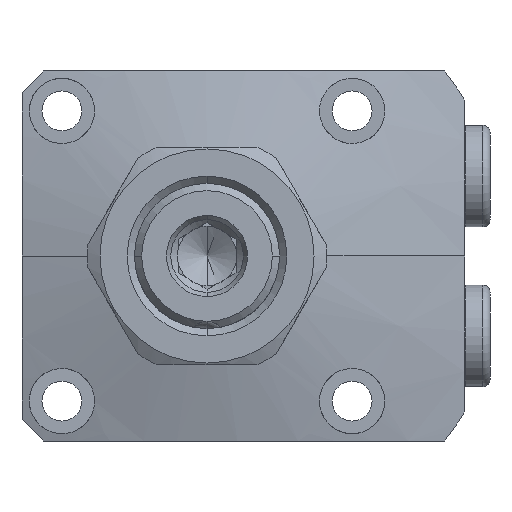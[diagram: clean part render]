
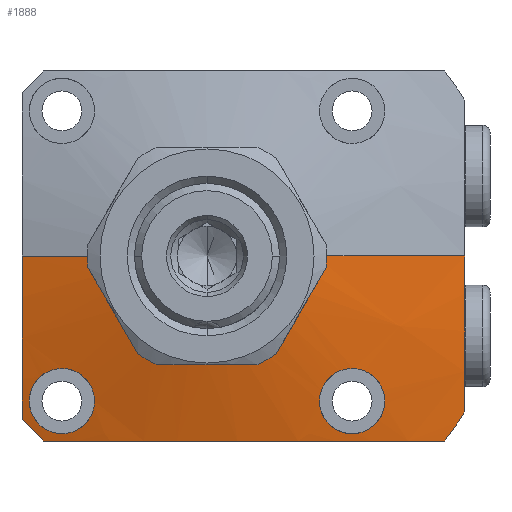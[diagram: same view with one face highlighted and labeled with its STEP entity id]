
A CAD part, left-side view. The second image highlights one B-rep face of the part: STEP entity #1888.
In plain terms, the highlighted conical face has half-angle 75 degrees and reference radius 15 mm.
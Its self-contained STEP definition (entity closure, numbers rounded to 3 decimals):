
#867=CONICAL_SURFACE('',#5576,15.,75.);
#935=B_SPLINE_CURVE_WITH_KNOTS('',3,(#8179,#8180,#8181,#8182,#8183,#8184,
#8185,#8186,#8187,#8188),.UNSPECIFIED.,.F.,.F.,(4,2,2,2,4),(0.,0.25,0.5,
0.75,1.),.UNSPECIFIED.);
#937=B_SPLINE_CURVE_WITH_KNOTS('',3,(#8215,#8216,#8217,#8218,#8219,#8220,
#8221,#8222,#8223,#8224),.UNSPECIFIED.,.F.,.F.,(4,2,2,2,4),(0.,0.25,0.5,
0.75,1.),.UNSPECIFIED.);
#948=B_SPLINE_CURVE_WITH_KNOTS('',3,(#8532,#8533,#8534,#8535),
 .UNSPECIFIED.,.F.,.F.,(4,4),(0.,1.),.UNSPECIFIED.);
#950=B_SPLINE_CURVE_WITH_KNOTS('',3,(#8625,#8626,#8627,#8628),
 .UNSPECIFIED.,.F.,.F.,(4,4),(0.,1.),.UNSPECIFIED.);
#951=B_SPLINE_CURVE_WITH_KNOTS('',3,(#8630,#8631,#8632,#8633),
 .UNSPECIFIED.,.F.,.F.,(4,4),(0.,1.),.UNSPECIFIED.);
#952=B_SPLINE_CURVE_WITH_KNOTS('',3,(#8635,#8636,#8637,#8638,#8639,#8640,
#8641,#8642,#8643,#8644),.UNSPECIFIED.,.F.,.F.,(4,2,2,2,4),(0.,0.25,0.5,
0.75,1.),.UNSPECIFIED.);
#953=B_SPLINE_CURVE_WITH_KNOTS('',3,(#8645,#8646,#8647,#8648,#8649,#8650,
#8651,#8652,#8653,#8654),.UNSPECIFIED.,.F.,.F.,(4,2,2,2,4),(0.,0.25,0.5,
0.75,1.),.UNSPECIFIED.);
#954=B_SPLINE_CURVE_WITH_KNOTS('',3,(#8655,#8656,#8657,#8658,#8659,#8660,
#8661,#8662,#8663,#8664),.UNSPECIFIED.,.F.,.F.,(4,2,2,2,4),(0.,0.25,0.5,
0.75,1.),.UNSPECIFIED.);
#1167=FACE_BOUND('',#2483,.T.);
#1168=FACE_BOUND('',#2484,.T.);
#1169=FACE_BOUND('',#2485,.T.);
#1399=LINE('',#8294,#1626);
#1400=LINE('',#8322,#1627);
#1626=VECTOR('',#6403,1.);
#1627=VECTOR('',#6406,1.);
#1888=ADVANCED_FACE('',(#1167,#1168,#1169),#867,.T.);
#2483=EDGE_LOOP('',(#3346,#3347,#3348,#3349,#3350,#3351,#3352,#3353));
#2484=EDGE_LOOP('',(#3354,#3355));
#2485=EDGE_LOOP('',(#3356,#3357));
#3346=ORIENTED_EDGE('',*,*,#4563,.F.);
#3347=ORIENTED_EDGE('',*,*,#4687,.F.);
#3348=ORIENTED_EDGE('',*,*,#4569,.T.);
#3349=ORIENTED_EDGE('',*,*,#4688,.T.);
#3350=ORIENTED_EDGE('',*,*,#4689,.T.);
#3351=ORIENTED_EDGE('',*,*,#4690,.T.);
#3352=ORIENTED_EDGE('',*,*,#4686,.T.);
#3353=ORIENTED_EDGE('',*,*,#4648,.T.);
#3354=ORIENTED_EDGE('',*,*,#4691,.F.);
#3355=ORIENTED_EDGE('',*,*,#4534,.F.);
#3356=ORIENTED_EDGE('',*,*,#4692,.F.);
#3357=ORIENTED_EDGE('',*,*,#4542,.F.);
#4058=VERTEX_POINT('',#8178);
#4059=VERTEX_POINT('',#8189);
#4066=VERTEX_POINT('',#8214);
#4067=VERTEX_POINT('',#8225);
#4082=VERTEX_POINT('',#8292);
#4083=VERTEX_POINT('',#8293);
#4084=VERTEX_POINT('',#8295);
#4089=VERTEX_POINT('',#8321);
#4151=VERTEX_POINT('',#8527);
#4160=VERTEX_POINT('',#8621);
#4161=VERTEX_POINT('',#8629);
#4162=VERTEX_POINT('',#8634);
#4534=EDGE_CURVE('',#4058,#4059,#935,.T.);
#4542=EDGE_CURVE('',#4066,#4067,#937,.T.);
#4563=EDGE_CURVE('',#4082,#4084,#1399,.T.);
#4569=EDGE_CURVE('',#4083,#4089,#1400,.T.);
#4648=EDGE_CURVE('',#4151,#4084,#948,.T.);
#4686=EDGE_CURVE('',#4160,#4151,#5103,.T.);
#4687=EDGE_CURVE('',#4083,#4082,#5104,.T.);
#4688=EDGE_CURVE('',#4089,#4161,#950,.T.);
#4689=EDGE_CURVE('',#4161,#4162,#951,.T.);
#4690=EDGE_CURVE('',#4162,#4160,#952,.T.);
#4691=EDGE_CURVE('',#4059,#4058,#953,.T.);
#4692=EDGE_CURVE('',#4067,#4066,#954,.T.);
#5103=CIRCLE('',#5573,41.5);
#5104=CIRCLE('',#5575,15.);
#5573=AXIS2_PLACEMENT_3D('',#8622,#6684,#6685);
#5575=AXIS2_PLACEMENT_3D('',#8624,#6688,#6689);
#5576=AXIS2_PLACEMENT_3D('',#8665,#6690,#6691);
#6403=DIRECTION('',(0.259,-0.966,0.));
#6406=DIRECTION('',(0.259,0.966,0.));
#6684=DIRECTION('',(-1.,0.,0.));
#6685=DIRECTION('',(0.,-1.,0.));
#6688=DIRECTION('',(-1.,0.,0.));
#6689=DIRECTION('',(0.,-1.,0.));
#6690=DIRECTION('',(1.,0.,0.));
#6691=DIRECTION('',(0.,-1.,0.));
#8178=CARTESIAN_POINT('',(-23.545,24.5,-20.));
#8179=CARTESIAN_POINT('',(-23.545,24.5,-20.));
#8180=CARTESIAN_POINT('',(-23.343,24.5,-21.192));
#8181=CARTESIAN_POINT('',(-23.232,24.004,-22.376));
#8182=CARTESIAN_POINT('',(-23.237,22.301,-24.047));
#8183=CARTESIAN_POINT('',(-23.355,21.101,-24.52));
#8184=CARTESIAN_POINT('',(-23.763,18.739,-24.478));
#8185=CARTESIAN_POINT('',(-24.051,17.594,-23.976));
#8186=CARTESIAN_POINT('',(-24.666,15.971,-22.317));
#8187=CARTESIAN_POINT('',(-24.989,15.5,-21.182));
#8188=CARTESIAN_POINT('',(-25.239,15.5,-20.));
#8189=CARTESIAN_POINT('',(-25.239,15.5,-20.));
#8214=CARTESIAN_POINT('',(-25.239,-15.5,-20.));
#8215=CARTESIAN_POINT('',(-25.239,-15.5,-20.));
#8216=CARTESIAN_POINT('',(-24.989,-15.5,-21.183));
#8217=CARTESIAN_POINT('',(-24.665,-15.974,-22.32));
#8218=CARTESIAN_POINT('',(-24.052,-17.591,-23.973));
#8219=CARTESIAN_POINT('',(-23.763,-18.741,-24.477));
#8220=CARTESIAN_POINT('',(-23.357,-21.088,-24.522));
#8221=CARTESIAN_POINT('',(-23.238,-22.291,-24.054));
#8222=CARTESIAN_POINT('',(-23.232,-24.005,-22.377));
#8223=CARTESIAN_POINT('',(-23.343,-24.5,-21.193));
#8224=CARTESIAN_POINT('',(-23.545,-24.5,-20.));
#8225=CARTESIAN_POINT('',(-23.545,-24.5,-20.));
#8292=CARTESIAN_POINT('',(-28.,-15.,0.));
#8293=CARTESIAN_POINT('',(-28.,15.,0.));
#8294=CARTESIAN_POINT('',(-28.,-15.,0.));
#8295=CARTESIAN_POINT('',(-22.507,-35.5,0.));
#8321=CARTESIAN_POINT('',(-25.187,25.5,0.));
#8322=CARTESIAN_POINT('',(-28.,15.,0.));
#8527=CARTESIAN_POINT('',(-20.899,-35.5,-21.494));
#8532=CARTESIAN_POINT('',(-20.899,-35.5,-21.494));
#8533=CARTESIAN_POINT('',(-21.889,-35.5,-14.363));
#8534=CARTESIAN_POINT('',(-22.507,-35.5,-7.205));
#8535=CARTESIAN_POINT('',(-22.507,-35.5,0.));
#8621=CARTESIAN_POINT('',(-20.899,-32.741,-25.5));
#8622=CARTESIAN_POINT('',(-20.899,0.,0.));
#8624=CARTESIAN_POINT('',(-28.,0.,0.));
#8625=CARTESIAN_POINT('',(-25.187,25.5,0.));
#8626=CARTESIAN_POINT('',(-25.187,25.5,-7.577));
#8627=CARTESIAN_POINT('',(-24.227,25.5,-15.057));
#8628=CARTESIAN_POINT('',(-22.907,25.5,-22.5));
#8629=CARTESIAN_POINT('',(-22.907,25.5,-22.5));
#8630=CARTESIAN_POINT('',(-22.907,25.5,-22.5));
#8631=CARTESIAN_POINT('',(-22.931,24.5,-23.5));
#8632=CARTESIAN_POINT('',(-22.931,23.5,-24.5));
#8633=CARTESIAN_POINT('',(-22.907,22.5,-25.5));
#8634=CARTESIAN_POINT('',(-22.907,22.5,-25.5));
#8635=CARTESIAN_POINT('',(-22.907,22.5,-25.5));
#8636=CARTESIAN_POINT('',(-23.719,17.919,-25.5));
#8637=CARTESIAN_POINT('',(-24.398,13.332,-25.5));
#8638=CARTESIAN_POINT('',(-25.196,4.134,-25.5));
#8639=CARTESIAN_POINT('',(-25.294,-0.478,-25.5));
#8640=CARTESIAN_POINT('',(-24.808,-9.732,-25.5));
#8641=CARTESIAN_POINT('',(-24.237,-14.383,-25.5));
#8642=CARTESIAN_POINT('',(-22.763,-23.596,-25.5));
#8643=CARTESIAN_POINT('',(-21.865,-28.175,-25.5));
#8644=CARTESIAN_POINT('',(-20.899,-32.741,-25.5));
#8645=CARTESIAN_POINT('',(-25.239,15.5,-20.));
#8646=CARTESIAN_POINT('',(-25.49,15.5,-18.815));
#8647=CARTESIAN_POINT('',(-25.649,15.992,-17.631));
#8648=CARTESIAN_POINT('',(-25.643,17.694,-15.955));
#8649=CARTESIAN_POINT('',(-25.477,18.892,-15.483));
#8650=CARTESIAN_POINT('',(-24.972,21.244,-15.518));
#8651=CARTESIAN_POINT('',(-24.646,22.382,-16.009));
#8652=CARTESIAN_POINT('',(-24.032,24.016,-17.661));
#8653=CARTESIAN_POINT('',(-23.747,24.5,-18.806));
#8654=CARTESIAN_POINT('',(-23.545,24.5,-20.));
#8655=CARTESIAN_POINT('',(-23.545,-24.5,-20.));
#8656=CARTESIAN_POINT('',(-23.747,-24.5,-18.806));
#8657=CARTESIAN_POINT('',(-24.033,-24.013,-17.658));
#8658=CARTESIAN_POINT('',(-24.645,-22.385,-16.012));
#8659=CARTESIAN_POINT('',(-24.973,-21.239,-15.52));
#8660=CARTESIAN_POINT('',(-25.474,-18.907,-15.482));
#8661=CARTESIAN_POINT('',(-25.643,-17.706,-15.946));
#8662=CARTESIAN_POINT('',(-25.65,-15.991,-17.63));
#8663=CARTESIAN_POINT('',(-25.49,-15.5,-18.815));
#8664=CARTESIAN_POINT('',(-25.239,-15.5,-20.));
#8665=CARTESIAN_POINT('',(-28.,0.,0.));
